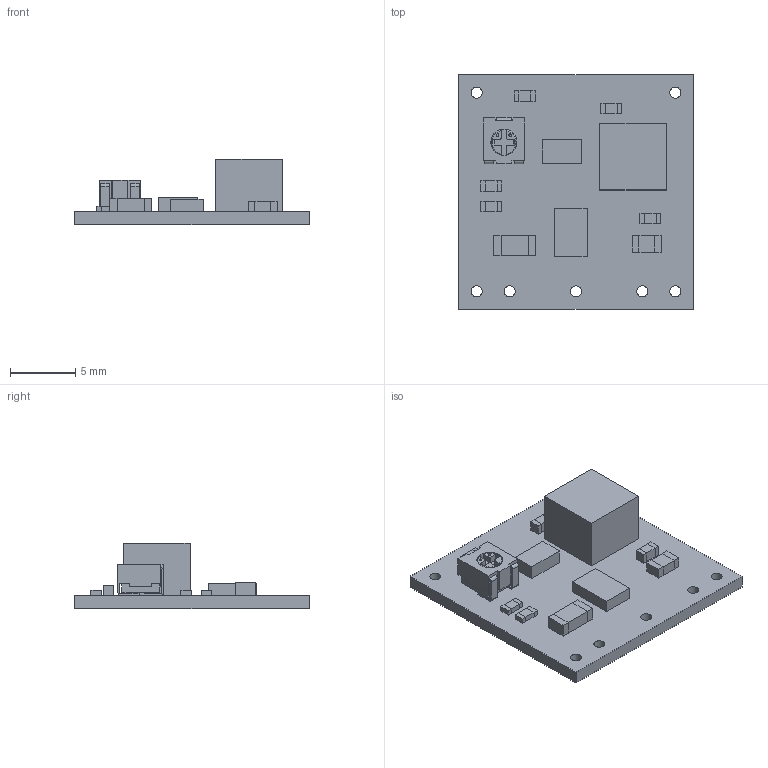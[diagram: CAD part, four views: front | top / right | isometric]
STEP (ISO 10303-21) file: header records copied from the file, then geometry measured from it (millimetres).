
FILE_DESCRIPTION(('Open CASCADE Model'),'2;1');
FILE_NAME('Open CASCADE Shape Model','2024-06-24T13:27:03',('Author'),( 'Open CASCADE'),'Open CASCADE STEP processor 7.5','Open CASCADE 7.5' ,'Unknown');
FILE_SCHEMA(('AUTOMOTIVE_DESIGN { 1 0 10303 214 1 1 1 1 }'));
Length unit declared in the file: millimetre
Products named in the file (39): PCB; Board; Open CASCADE STEP translator 7.5 3.1.1; R2; 6229550304; Extruded; 6229550144; RT1; 3313J-2_RGB8421504; R3; R1; L1; 6229549904; IC1; 6229549744; D1; 6229547584; C4; 6229548304; 6229548144; 6229547984; C3; 6229549344; 6229549184; C2; 6229548944; 6229548784; C1
Assembly tree (50 placements, depth 4):
  PCB
    Board
      Open CASCADE STEP translator 7.5 3.1.1
    R2
      6229550304  x2
        Extruded
      6229550144
        Extruded
    RT1
      3313J-2_RGB8421504
    R3
      6229550304  x2
        Extruded
      6229550144
        Extruded
    R1
      6229550304  x2
        Extruded
      6229550144
        Extruded
    L1
      6229549904
        Extruded
    IC1
      6229549744
        Extruded
    D1
      6229547584
        Extruded
    C4
      6229548304
        Extruded
      6229548144
        Extruded
      6229547984
        Extruded
    C3
      6229549344  x2
        Extruded
      6229549184
        Extruded
    C2
      6229548944  x2
        Extruded
      6229548784
        Extruded
    C1
      6229549344  x2
        Extruded
      6229549184
        Extruded
Bounding box: 18 x 18 x 5 mm (x, y, z)
Volume: 471.8 mm3; surface area: 1099.4 mm2
Topology: 31 solids, 31 shells, 270 faces, 613 edges, 408 vertices
Faces by surface type: plane 229, cylinder 39, torus 2
Full cylindrical faces by diameter (mm): 0.85 x7
Entity records: 6698 total; most frequent: CARTESIAN_POINT 1132, DIRECTION 1035, ORIENTED_EDGE 938, EDGE_CURVE 469, LINE 381, VECTOR 381, AXIS2_PLACEMENT_3D 327, VERTEX_POINT 312
